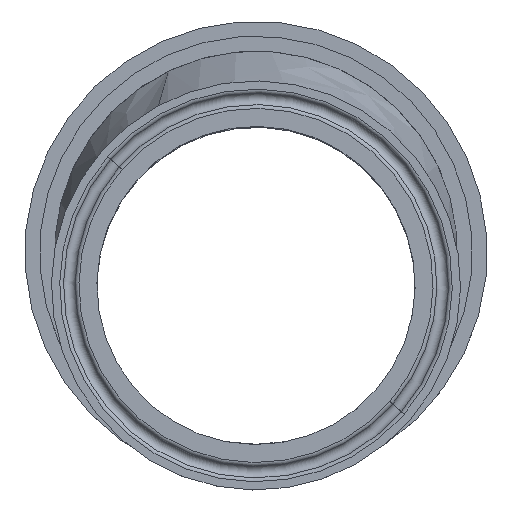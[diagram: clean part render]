
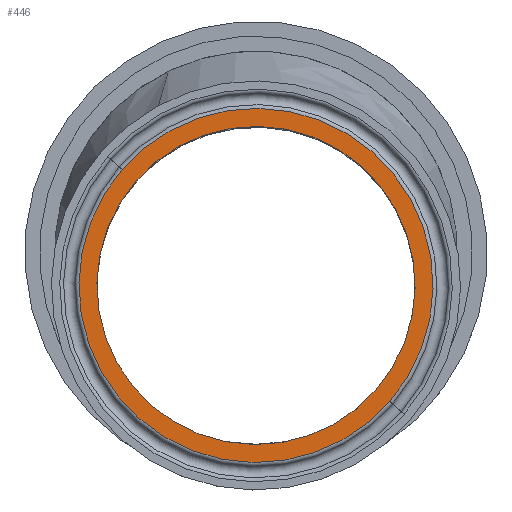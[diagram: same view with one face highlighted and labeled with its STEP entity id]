
A CAD part, top view. The second image highlights one B-rep face of the part: STEP entity #446.
In plain terms, the highlighted planar face has unit normal (0, 0, 1) as drawn and (0, -1, 0) by its records, which use the part's own axes.
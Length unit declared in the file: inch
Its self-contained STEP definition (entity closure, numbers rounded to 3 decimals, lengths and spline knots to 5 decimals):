
#94 = DIRECTION ( 'NONE',  ( 0., 0., -1. ) ) ;
#155 = AXIS2_PLACEMENT_3D ( 'NONE', #906, #1037, #243 ) ;
#207 = DIRECTION ( 'NONE',  ( 0., -1., 0. ) ) ;
#216 = CARTESIAN_POINT ( 'NONE',  ( 0., 0., 1.31892 ) ) ;
#218 = VERTEX_POINT ( 'NONE', #216 ) ;
#243 = DIRECTION ( 'NONE',  ( 0., 0., 1. ) ) ;
#259 = FACE_OUTER_BOUND ( 'NONE', #1842, .T. ) ;
#272 = PLANE ( 'NONE',  #155 ) ;
#273 = EDGE_CURVE ( 'NONE', #1581, #743, #1734, .T. ) ;
#280 = CARTESIAN_POINT ( 'NONE',  ( 0., 0., 0. ) ) ;
#302 = CIRCLE ( 'NONE', #945, 1.31892 ) ;
#388 = FACE_BOUND ( 'NONE', #1518, .T. ) ;
#446 = ADVANCED_FACE ( 'NONE', ( #388, #259 ), #272, .F. ) ;
#522 = CARTESIAN_POINT ( 'NONE',  ( 0., 0., 0. ) ) ;
#651 = ORIENTED_EDGE ( 'NONE', *, *, #1307, .T. ) ;
#738 = AXIS2_PLACEMENT_3D ( 'NONE', #1865, #1203, #94 ) ;
#743 = VERTEX_POINT ( 'NONE', #1078 ) ;
#853 = AXIS2_PLACEMENT_3D ( 'NONE', #522, #207, #1824 ) ;
#865 = ORIENTED_EDGE ( 'NONE', *, *, #1991, .F. ) ;
#906 = CARTESIAN_POINT ( 'NONE',  ( 0., 0., 0. ) ) ;
#938 = ORIENTED_EDGE ( 'NONE', *, *, #273, .F. ) ;
#945 = AXIS2_PLACEMENT_3D ( 'NONE', #280, #1076, #1124 ) ;
#1037 = DIRECTION ( 'NONE',  ( 0., 1., 0. ) ) ;
#1050 = CARTESIAN_POINT ( 'NONE',  ( 0., 0., 0. ) ) ;
#1076 = DIRECTION ( 'NONE',  ( 0., -1., 0. ) ) ;
#1078 = CARTESIAN_POINT ( 'NONE',  ( 0., 0., -1.185 ) ) ;
#1124 = DIRECTION ( 'NONE',  ( 0., 0., -1. ) ) ;
#1197 = CARTESIAN_POINT ( 'NONE',  ( 0., 0., 1.185 ) ) ;
#1203 = DIRECTION ( 'NONE',  ( 0., -1., 0. ) ) ;
#1237 = DIRECTION ( 'NONE',  ( 0., 0., -1. ) ) ;
#1259 = ORIENTED_EDGE ( 'NONE', *, *, #1679, .T. ) ;
#1307 = EDGE_CURVE ( 'NONE', #1862, #218, #302, .T. ) ;
#1388 = DIRECTION ( 'NONE',  ( 0., -1., 0. ) ) ;
#1486 = CIRCLE ( 'NONE', #738, 1.31892 ) ;
#1518 = EDGE_LOOP ( 'NONE', ( #865, #938 ) ) ;
#1581 = VERTEX_POINT ( 'NONE', #1197 ) ;
#1679 = EDGE_CURVE ( 'NONE', #218, #1862, #1486, .T. ) ;
#1690 = CIRCLE ( 'NONE', #1955, 1.185 ) ;
#1734 = CIRCLE ( 'NONE', #853, 1.185 ) ;
#1824 = DIRECTION ( 'NONE',  ( 0., 0., -1. ) ) ;
#1842 = EDGE_LOOP ( 'NONE', ( #651, #1259 ) ) ;
#1862 = VERTEX_POINT ( 'NONE', #2061 ) ;
#1865 = CARTESIAN_POINT ( 'NONE',  ( 0., 0., 0. ) ) ;
#1955 = AXIS2_PLACEMENT_3D ( 'NONE', #1050, #1388, #1237 ) ;
#1991 = EDGE_CURVE ( 'NONE', #743, #1581, #1690, .T. ) ;
#2061 = CARTESIAN_POINT ( 'NONE',  ( 0., 0., -1.31892 ) ) ;
